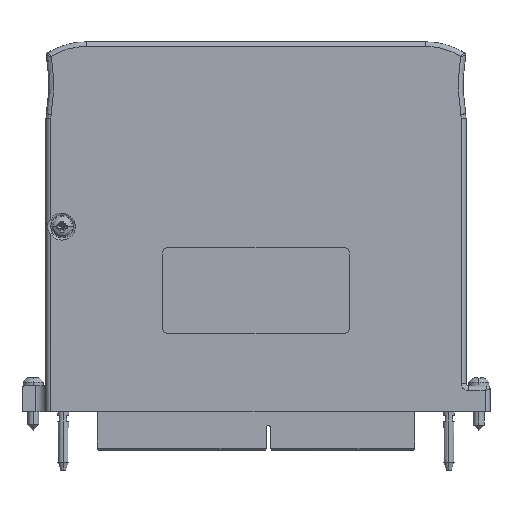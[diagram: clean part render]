
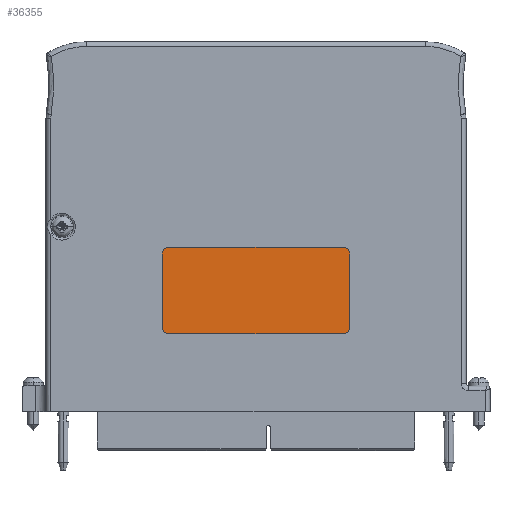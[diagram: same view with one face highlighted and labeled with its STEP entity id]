
A CAD part, left-side view. The second image highlights one B-rep face of the part: STEP entity #36355.
In plain terms, the highlighted planar face has unit normal (-1, 0, 0).
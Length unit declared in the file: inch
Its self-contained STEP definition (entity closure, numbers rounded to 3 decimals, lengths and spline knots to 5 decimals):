
#13058=CARTESIAN_POINT('',(-0.389,-0.943,1.704));
#13059=DIRECTION('',(-1.,0.,0.));
#13060=DIRECTION('',(0.,-1.,0.));
#13061=AXIS2_PLACEMENT_3D('',#13058,#13059,#13060);
#13063=DIRECTION('',(0.,0.,1.));
#13064=VECTOR('',#13063,0.792);
#13065=CARTESIAN_POINT('',(-0.389,-1.015,0.912));
#13066=LINE('',#13065,#13064);
#13067=CARTESIAN_POINT('',(-0.389,-0.943,0.912));
#13068=DIRECTION('',(-1.,0.,0.));
#13069=DIRECTION('',(0.,0.,-1.));
#13070=AXIS2_PLACEMENT_3D('',#13067,#13068,#13069);
#13072=DIRECTION('',(0.,-1.,0.));
#13073=VECTOR('',#13072,1.886);
#13074=CARTESIAN_POINT('',(-0.389,0.943,0.84));
#13075=LINE('',#13074,#13073);
#13076=CARTESIAN_POINT('',(-0.389,0.943,0.912));
#13077=DIRECTION('',(-1.,0.,0.));
#13078=DIRECTION('',(0.,1.,0.));
#13079=AXIS2_PLACEMENT_3D('',#13076,#13077,#13078);
#13081=DIRECTION('',(0.,0.,-1.));
#13082=VECTOR('',#13081,0.792);
#13083=CARTESIAN_POINT('',(-0.389,1.015,1.704));
#13084=LINE('',#13083,#13082);
#13085=CARTESIAN_POINT('',(-0.389,0.943,1.704));
#13086=DIRECTION('',(-1.,0.,0.));
#13087=DIRECTION('',(0.,0.,1.));
#13088=AXIS2_PLACEMENT_3D('',#13085,#13086,#13087);
#13090=DIRECTION('',(0.,1.,0.));
#13091=VECTOR('',#13090,1.886);
#13092=CARTESIAN_POINT('',(-0.389,-0.943,1.776));
#13093=LINE('',#13092,#13091);
#17992=CARTESIAN_POINT('',(-0.389,-1.015,1.704));
#17993=CARTESIAN_POINT('',(-0.389,-0.943,1.776));
#17994=VERTEX_POINT('',#17992);
#17995=VERTEX_POINT('',#17993);
#17996=CARTESIAN_POINT('',(-0.389,0.943,1.776));
#17997=VERTEX_POINT('',#17996);
#17998=CARTESIAN_POINT('',(-0.389,1.015,1.704));
#17999=VERTEX_POINT('',#17998);
#18000=CARTESIAN_POINT('',(-0.389,1.015,0.912));
#18001=VERTEX_POINT('',#18000);
#18002=CARTESIAN_POINT('',(-0.389,0.943,0.84));
#18003=VERTEX_POINT('',#18002);
#18004=CARTESIAN_POINT('',(-0.389,-0.943,0.84));
#18005=VERTEX_POINT('',#18004);
#18006=CARTESIAN_POINT('',(-0.389,-1.015,0.912));
#18007=VERTEX_POINT('',#18006);
#36340=CARTESIAN_POINT('',(-0.389,0.,0.));
#36341=DIRECTION('',(-1.,0.,0.));
#36342=DIRECTION('',(0.,0.,-1.));
#36343=AXIS2_PLACEMENT_3D('',#36340,#36341,#36342);
#36344=PLANE('',#36343);
#36345=ORIENTED_EDGE('',*,*,#36236,.F.);
#36346=ORIENTED_EDGE('',*,*,#36251,.F.);
#36347=ORIENTED_EDGE('',*,*,#36265,.F.);
#36348=ORIENTED_EDGE('',*,*,#36279,.F.);
#36349=ORIENTED_EDGE('',*,*,#36293,.F.);
#36350=ORIENTED_EDGE('',*,*,#36307,.F.);
#36351=ORIENTED_EDGE('',*,*,#36321,.F.);
#36352=ORIENTED_EDGE('',*,*,#36334,.F.);
#36353=EDGE_LOOP('',(#36345,#36346,#36347,#36348,#36349,#36350,#36351,#36352));
#36354=FACE_OUTER_BOUND('',#36353,.F.);
#36355=ADVANCED_FACE('',(#36354),#36344,.T.);
#13062=CIRCLE('',#13061,0.072);
#13071=CIRCLE('',#13070,0.072);
#13080=CIRCLE('',#13079,0.072);
#13089=CIRCLE('',#13088,0.072);
#36236=EDGE_CURVE('',#17994,#17995,#13062,.T.);
#36251=EDGE_CURVE('',#18007,#17994,#13066,.T.);
#36265=EDGE_CURVE('',#18005,#18007,#13071,.T.);
#36279=EDGE_CURVE('',#18003,#18005,#13075,.T.);
#36293=EDGE_CURVE('',#18001,#18003,#13080,.T.);
#36307=EDGE_CURVE('',#17999,#18001,#13084,.T.);
#36321=EDGE_CURVE('',#17997,#17999,#13089,.T.);
#36334=EDGE_CURVE('',#17995,#17997,#13093,.T.);
